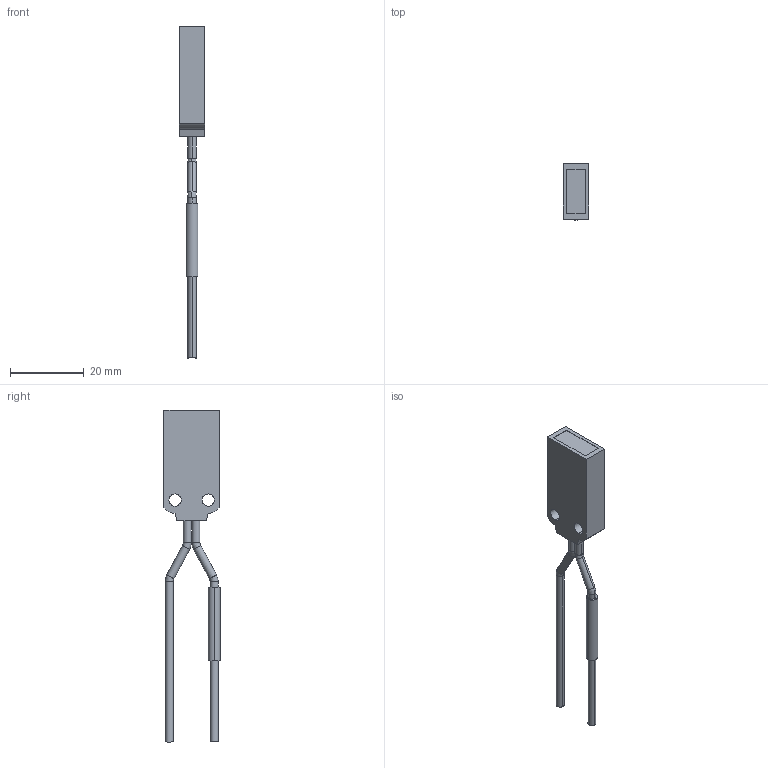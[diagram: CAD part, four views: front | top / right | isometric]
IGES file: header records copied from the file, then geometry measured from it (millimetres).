
Start section: SolidWorks IGES FILE using analytic representation for surfaces
Global section: file name: C:\Documents and Settings\yk0651\デスクトップ\3D_catalog_050904\0_IGES\FD-A15.IGS; native system: SolidWorks 2004 by SolidWorks Corporation; preprocessor: Version 5.3; author: yk0651; date: 050904.181332; units: millimetre
Bounding box: 7 x 15.2 x 90 mm (x, y, z)
Volume: 3463.2 mm3; surface area: 2508.6 mm2
Topology: 1 solids, 1 shells, 47 faces, 104 edges, 64 vertices
Faces by surface type: revolution 30, plane 17
